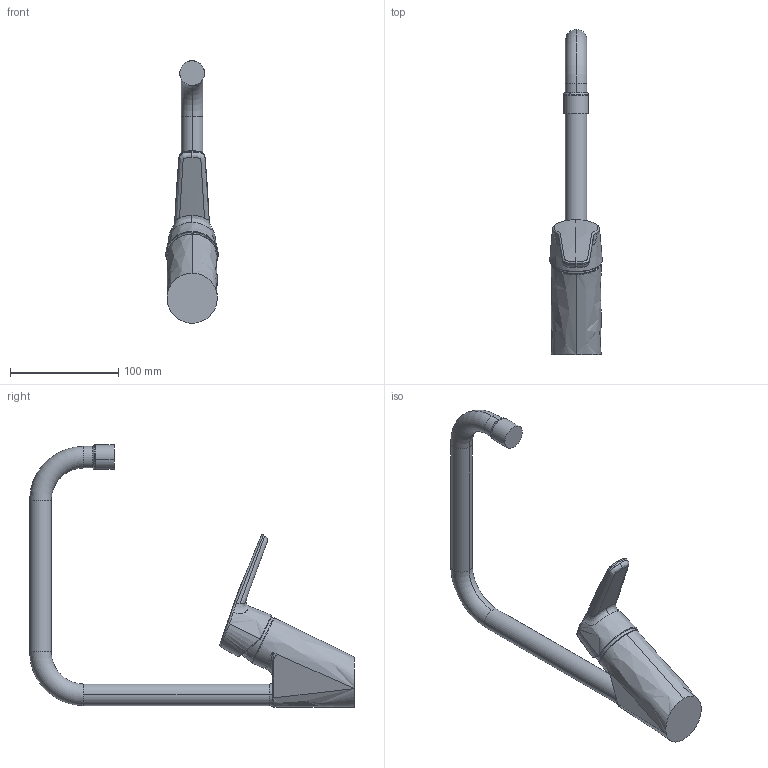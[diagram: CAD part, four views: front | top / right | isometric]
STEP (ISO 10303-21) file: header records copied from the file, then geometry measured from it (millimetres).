
FILE_DESCRIPTION (( 'STEP AP203' ), '1' );
FILE_NAME ('1523F(2017).STEP', '2019-06-04T09:07:38', ( '' ), ( '' ), 'SwSTEP 2.0', 'SolidWorks 2016', '' );
FILE_SCHEMA (( 'CONFIG_CONTROL_DESIGN' ));
Length unit declared in the file: millimetre
Products named in the file (1): 1523F(2017)
Bounding box: 48.62 x 300.7 x 243 mm (x, y, z)
Volume: 315416 mm3; surface area: 93426.5 mm2
Topology: 7 solids, 7 shells, 99 faces, 248 edges, 164 vertices
Faces by surface type: bspline 44, cylinder 19, plane 17, torus 12, cone 7
Entity records: 19165 total; most frequent: CARTESIAN_POINT 17085, ORIENTED_EDGE 496, DIRECTION 290, EDGE_CURVE 248, VERTEX_POINT 164, B_SPLINE_CURVE_WITH_KNOTS 137, AXIS2_PLACEMENT_3D 128, EDGE_LOOP 102
